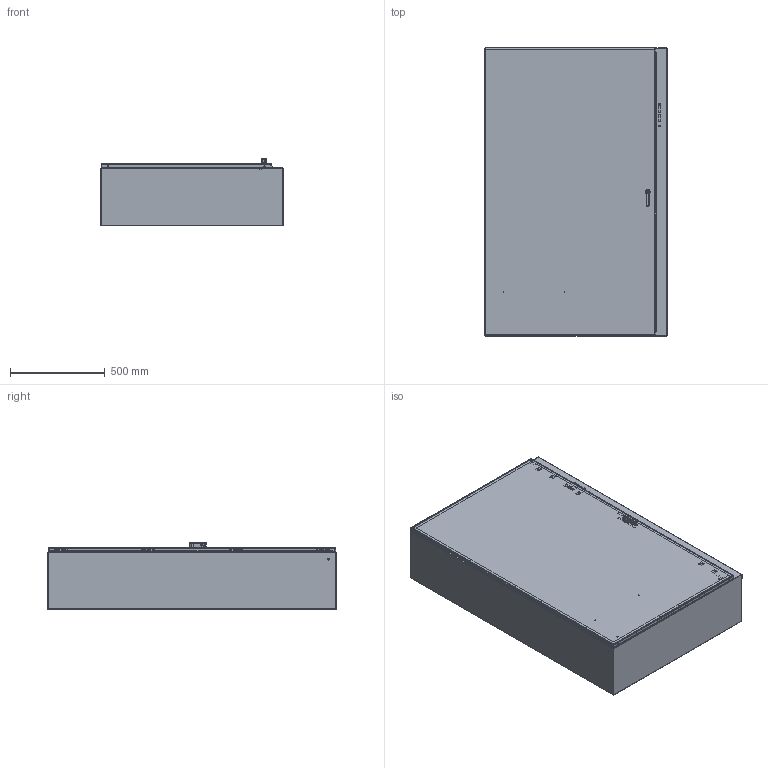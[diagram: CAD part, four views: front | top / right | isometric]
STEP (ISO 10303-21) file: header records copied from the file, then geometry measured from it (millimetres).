
FILE_DESCRIPTION (( 'STEP AP203' ), '1' );
FILE_NAME ('cdsc603812.STEP', '2020-02-14T16:21:49', ( '' ), ( '' ), 'SwSTEP 2.0', 'SolidWorks 2016', '' );
FILE_SCHEMA (( 'CONFIG_CONTROL_DESIGN' ));
Length unit declared in the file: inch
Products named in the file (44): 22101011; 64157001_Locked; 87543027; 64424005; 87555298; 23271001_After Weld; 99411612; 89076193; 87938438; 87562939_87562939; 89076399; 64212007; 89123203; 64144001; 51123001_Post weld; 89131630; 87415915_Locked; 64205001; 99401225_Config-Drawing; cdsc603812; 64207001; 99401225; 87541995; 89123196; 99411834; 64206006; 87540678; 89082565; 87756335; 87938385; 64103001; 89173484; 64208001; 64424006; 87938428_fip; 87938408_assy; 87932266; 99411839_99411839; 87784879_CWHPTO; 79410_LOCKED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
Assembly tree (72 placements, depth 5):
  cdsc603812
    89082565
      87756335
      64424005
      64424006
      23271001_After Weld  x8
      99401225_Config-Drawing
    87543027  x4
    89076399  x4
      89076193
      89131630
    87938408_assy
      87938428_fip
        87938385
        99401225  x3
        51123001_Post weld
        87931362_87931362  x2
      87415915_Locked
        64157001_Locked
          87540678
          64210001
          64208001
          64205001  x2
          87541995
          87932266
        64103001  x5
        64206006  x2
        64207001  x2
        99411834  x3
        64212007
        64144001
        99411612  x2
      87555298
      87562939_87562939
      87938438
      22101011  x2
      99411839_99411839  x2
      89173484
      89173485
      89175157_89175157  x2
    87784879_CWHPTO
      79410_LOCKED
    89123203
      89123196
Bounding box: 963.93 x 1524 x 353.36 mm (x, y, z)
Volume: 9057620.9 mm3; surface area: 9691857.2 mm2
Topology: 70 solids, 70 shells, 4713 faces, 12282 edges, 7763 vertices
Faces by surface type: plane 2157, cylinder 1266, bspline 845, torus 245, cone 135, sphere 65
Entity records: 100541 total; most frequent: CARTESIAN_POINT 34516, ORIENTED_EDGE 13244, DIRECTION 11635, EDGE_CURVE 6622, VERTEX_POINT 4207, AXIS2_PLACEMENT_3D 3915, VECTOR 3805, LINE 3805
